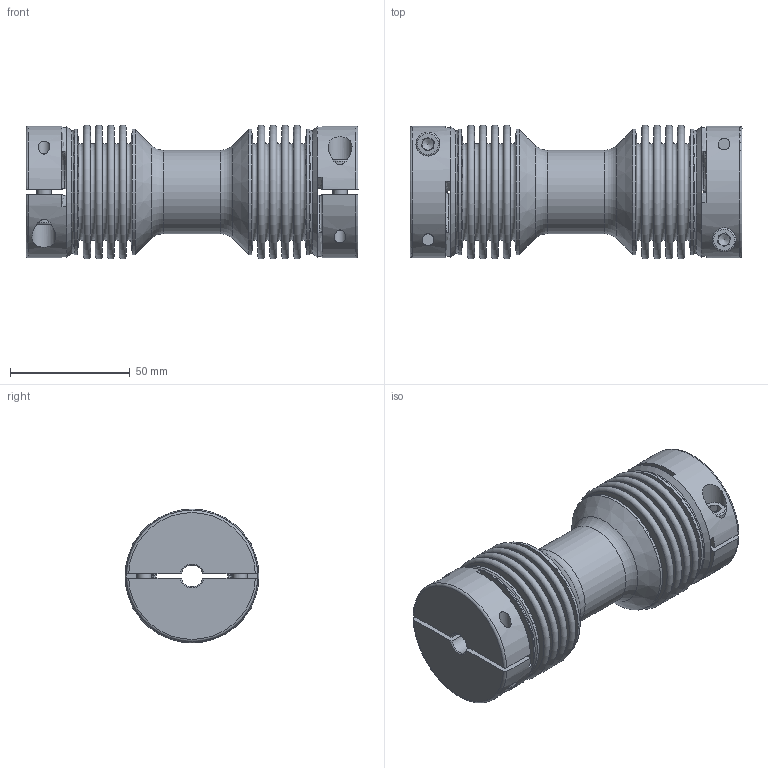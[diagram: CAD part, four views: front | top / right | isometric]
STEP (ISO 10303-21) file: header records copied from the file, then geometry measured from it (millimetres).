
FILE_DESCRIPTION(/* description */ ('Unknown','CAx-IF Rec.Pracs.---Representation and Presentation of Product Manufacturing Information (PMI)---4.0---2014-10-13','CAx-IF Rec.Pracs.---3D Tessellated Geometry---0.4---2014-09-14','2;1'),/* implementation_level */ '2;1');
FILE_NAME(/* name */ 'WDB 40',/* time_stamp */ '2023-01-16T11:46:20+01:00',/* author */ ('Unknown'),/* organization */ ('Unknown'),/* preprocessor_version */ 'ST-DEVELOPER v18.102',/* originating_system */ 'Solid Edge',/* authorisation */ 'Unknown');
FILE_SCHEMA (('AP242_MANAGED_MODEL_BASED_3D_ENGINEERING_MIM_LF { 1 0 10303 442 1 1 4 }'));
Length unit declared in the file: millimetre
Products named in the file (1): 16824404
Bounding box: 138.8 x 56 x 56 mm (x, y, z)
Volume: 122580.6 mm3; surface area: 103817.9 mm2
Topology: 1 solids, 1 shells, 254 faces, 563 edges, 359 vertices
Faces by surface type: plane 122, torus 56, cylinder 46, cone 30
Full cylindrical faces by diameter (mm): 4.917 x4, 6 x4, 6.5 x4, 30 x1, 33 x2, 35 x1, 51.5 x4, 52.5 x4, 55 x2
Entity records: 8552 total; most frequent: CARTESIAN_POINT 1610, DIRECTION 1120, ORIENTED_EDGE 864, AXIS2_PLACEMENT_3D 488, EDGE_CURVE 432, FACE_BOUND 412, EDGE_LOOP 408, VERTEX_POINT 328
